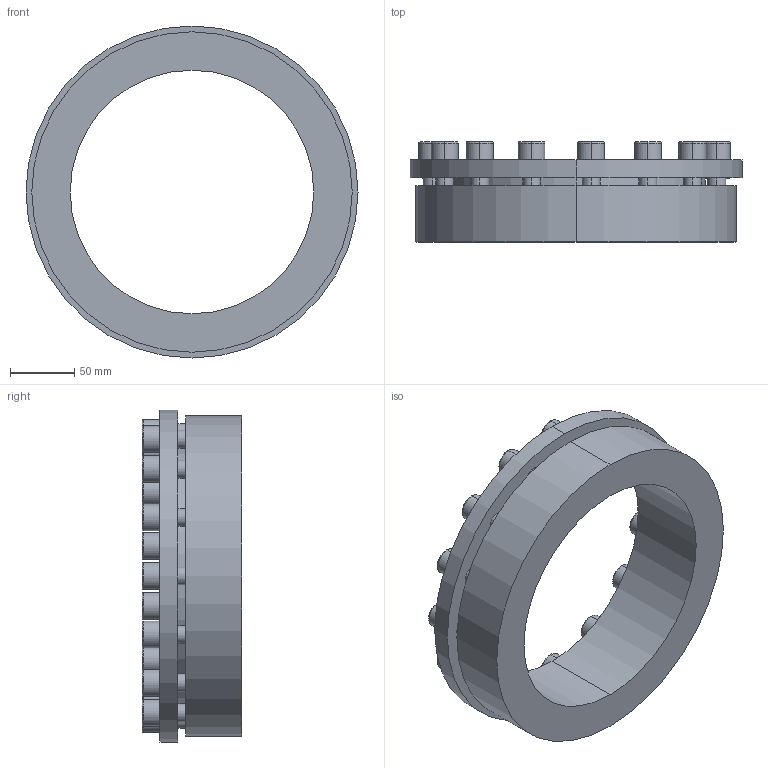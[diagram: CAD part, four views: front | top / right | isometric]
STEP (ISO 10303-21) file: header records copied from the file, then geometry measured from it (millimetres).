
FILE_DESCRIPTION (( 'STEP AP203' ), '1' );
FILE_NAME ('PL-H6 190-250.STEP', '2021-10-23T01:39:49', ( '' ), ( '' ), 'SwSTEP 2.0', 'SolidWorks 2018', '' );
FILE_SCHEMA (( 'CONFIG_CONTROL_DESIGN' ));
Length unit declared in the file: millimetre
Products named in the file (1): PL-H6 190-250
Bounding box: 259 x 78 x 259 mm (x, y, z)
Volume: 1348427.5 mm3; surface area: 187831.2 mm2
Topology: 1 solids, 1 shells, 222 faces, 534 edges, 346 vertices
Faces by surface type: plane 124, cylinder 68, torus 30
Entity records: 6615 total; most frequent: DIRECTION 1176, CARTESIAN_POINT 1103, ORIENTED_EDGE 1068, EDGE_CURVE 534, AXIS2_PLACEMENT_3D 419, VERTEX_POINT 346, LINE 338, VECTOR 338
